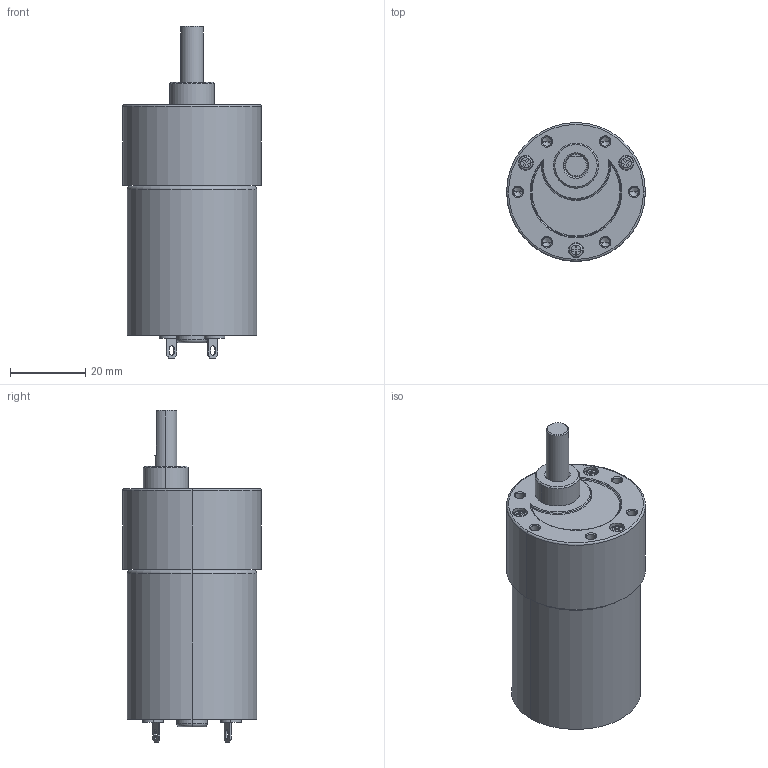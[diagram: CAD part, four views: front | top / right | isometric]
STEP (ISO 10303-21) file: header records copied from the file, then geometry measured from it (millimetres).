
FILE_DESCRIPTION (( 'STEP AP214' ), '1' );
FILE_NAME ('BDSG-37-40-R18.STEP', '2010-06-25T15:48:36', ( 'Tim Raines' ), ( 'Anaheim Automation' ), 'SwSTEP 2.0', 'SolidWorks 2010', '' );
FILE_SCHEMA (( 'AUTOMOTIVE_DESIGN' ));
Length unit declared in the file: millimetre
Products named in the file (1): BDSG-37-40-R18
Bounding box: 37 x 37 x 88.5 mm (x, y, z)
Volume: 60626.7 mm3; surface area: 10757.4 mm2
Topology: 1 solids, 1 shells, 180 faces, 423 edges, 260 vertices
Faces by surface type: plane 77, cylinder 48, cone 31, torus 24
Entity records: 7118 total; most frequent: DIRECTION 934, CARTESIAN_POINT 894, ORIENTED_EDGE 822, EDGE_CURVE 411, AXIS2_PLACEMENT_3D 348, VERTEX_POINT 260, VECTOR 238, LINE 238
